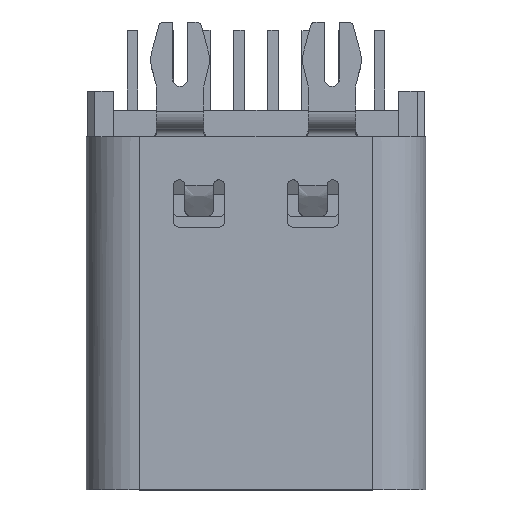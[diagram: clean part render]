
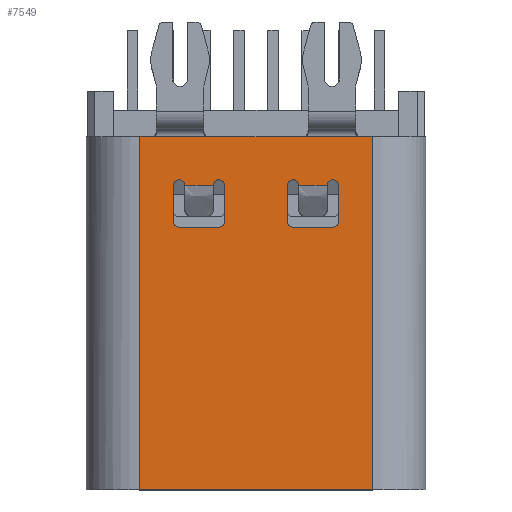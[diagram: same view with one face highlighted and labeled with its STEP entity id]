
A CAD part, top view. The second image highlights one B-rep face of the part: STEP entity #7549.
In plain terms, the highlighted planar face has unit normal (0, 0, 1).
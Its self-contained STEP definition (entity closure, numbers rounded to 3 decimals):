
#825=DIRECTION('',(0.,-1.,0.));
#826=VECTOR('',#825,9.299);
#827=CARTESIAN_POINT('',(-3.07,3.674,1.13));
#828=LINE('',#827,#826);
#1088=DIRECTION('',(0.,1.,0.));
#1089=VECTOR('',#1088,9.299);
#1090=CARTESIAN_POINT('',(3.07,-5.625,1.13));
#1091=LINE('',#1090,#1089);
#1147=DIRECTION('',(-1.,0.,0.));
#1148=VECTOR('',#1147,6.14);
#1149=CARTESIAN_POINT('',(3.07,-5.625,1.13));
#1150=LINE('',#1149,#1148);
#1151=DIRECTION('',(1.,0.,0.));
#1152=VECTOR('',#1151,0.345);
#1153=CARTESIAN_POINT('',(-3.07,3.674,1.13));
#1154=LINE('',#1153,#1152);
#1155=DIRECTION('',(1.,0.,0.));
#1156=VECTOR('',#1155,2.55);
#1157=CARTESIAN_POINT('',(-1.275,3.674,1.13));
#1158=LINE('',#1157,#1156);
#1159=DIRECTION('',(1.,0.,0.));
#1160=VECTOR('',#1159,0.345);
#1161=CARTESIAN_POINT('',(2.725,3.674,1.13));
#1162=LINE('',#1161,#1160);
#1163=CARTESIAN_POINT('',(-2.025,2.391,1.13));
#1164=DIRECTION('',(0.,0.,-1.));
#1165=DIRECTION('',(-1.,0.,0.));
#1166=AXIS2_PLACEMENT_3D('',#1163,#1164,#1165);
#1168=DIRECTION('',(0.,1.,0.));
#1169=VECTOR('',#1168,0.947);
#1170=CARTESIAN_POINT('',(-2.175,1.444,1.13));
#1171=LINE('',#1170,#1169);
#1172=CARTESIAN_POINT('',(-2.025,1.444,1.13));
#1173=DIRECTION('',(0.,0.,-1.));
#1174=DIRECTION('',(0.,-1.,0.));
#1175=AXIS2_PLACEMENT_3D('',#1172,#1173,#1174);
#1177=DIRECTION('',(-1.,0.,0.));
#1178=VECTOR('',#1177,1.05);
#1179=CARTESIAN_POINT('',(-0.975,1.294,
1.13));
#1180=LINE('',#1179,#1178);
#1181=CARTESIAN_POINT('',(-0.975,1.444,
1.13));
#1182=DIRECTION('',(0.,0.,-1.));
#1183=DIRECTION('',(1.,0.,0.));
#1184=AXIS2_PLACEMENT_3D('',#1181,#1182,#1183);
#1186=DIRECTION('',(0.,-1.,0.));
#1187=VECTOR('',#1186,0.947);
#1188=CARTESIAN_POINT('',(-0.825,2.391,
1.13));
#1189=LINE('',#1188,#1187);
#1190=CARTESIAN_POINT('',(-0.975,2.391,
1.13));
#1191=DIRECTION('',(0.,0.,-1.));
#1192=DIRECTION('',(-1.,0.,0.));
#1193=AXIS2_PLACEMENT_3D('',#1190,#1191,#1192);
#1195=DIRECTION('',(-1.,0.,0.));
#1196=VECTOR('',#1195,0.75);
#1197=CARTESIAN_POINT('',(-1.125,2.391,1.13));
#1198=LINE('',#1197,#1196);
#1199=CARTESIAN_POINT('',(0.975,2.391,1.13));
#1200=DIRECTION('',(0.,0.,-1.));
#1201=DIRECTION('',(-1.,0.,0.));
#1202=AXIS2_PLACEMENT_3D('',#1199,#1200,#1201);
#1204=DIRECTION('',(0.,1.,0.));
#1205=VECTOR('',#1204,0.947);
#1206=CARTESIAN_POINT('',(0.825,1.444,1.13));
#1207=LINE('',#1206,#1205);
#1208=CARTESIAN_POINT('',(0.975,1.444,1.13));
#1209=DIRECTION('',(0.,0.,-1.));
#1210=DIRECTION('',(0.,-1.,0.));
#1211=AXIS2_PLACEMENT_3D('',#1208,#1209,#1210);
#1213=DIRECTION('',(-1.,0.,0.));
#1214=VECTOR('',#1213,1.05);
#1215=CARTESIAN_POINT('',(2.025,1.294,1.13));
#1216=LINE('',#1215,#1214);
#1217=CARTESIAN_POINT('',(2.025,1.444,1.13));
#1218=DIRECTION('',(0.,0.,-1.));
#1219=DIRECTION('',(1.,0.,0.));
#1220=AXIS2_PLACEMENT_3D('',#1217,#1218,#1219);
#1222=DIRECTION('',(0.,-1.,0.));
#1223=VECTOR('',#1222,0.947);
#1224=CARTESIAN_POINT('',(2.175,2.391,1.13));
#1225=LINE('',#1224,#1223);
#1226=CARTESIAN_POINT('',(2.025,2.391,1.13));
#1227=DIRECTION('',(0.,0.,-1.));
#1228=DIRECTION('',(-1.,0.,0.));
#1229=AXIS2_PLACEMENT_3D('',#1226,#1227,#1228);
#1231=DIRECTION('',(1.,0.,0.));
#1232=VECTOR('',#1231,0.75);
#1233=CARTESIAN_POINT('',(1.125,2.391,1.13));
#1234=LINE('',#1233,#1232);
#1244=DIRECTION('',(-1.,0.,0.));
#1245=VECTOR('',#1244,1.45);
#1246=CARTESIAN_POINT('',(-1.275,3.674,1.13));
#1247=LINE('',#1246,#1245);
#1582=DIRECTION('',(-1.,0.,0.));
#1583=VECTOR('',#1582,1.45);
#1584=CARTESIAN_POINT('',(2.725,3.674,1.13));
#1585=LINE('',#1584,#1583);
#1586=CARTESIAN_POINT('',(1.275,3.674,1.13));
#1606=CARTESIAN_POINT('',(2.725,3.674,1.13));
#5540=VERTEX_POINT('',#1586);
#5546=VERTEX_POINT('',#1606);
#5565=CARTESIAN_POINT('',(-1.275,3.674,1.13));
#5566=CARTESIAN_POINT('',(-2.725,3.674,1.13));
#5567=VERTEX_POINT('',#5565);
#5568=VERTEX_POINT('',#5566);
#5733=CARTESIAN_POINT('',(3.07,3.674,1.13));
#5734=VERTEX_POINT('',#5733);
#5735=CARTESIAN_POINT('',(-3.07,3.674,1.13));
#5736=VERTEX_POINT('',#5735);
#5741=CARTESIAN_POINT('',(2.025,1.294,1.13));
#5742=CARTESIAN_POINT('',(0.975,1.294,1.13));
#5743=VERTEX_POINT('',#5741);
#5744=VERTEX_POINT('',#5742);
#5745=CARTESIAN_POINT('',(0.825,1.444,1.13));
#5746=CARTESIAN_POINT('',(0.825,2.391,1.13));
#5747=VERTEX_POINT('',#5745);
#5748=VERTEX_POINT('',#5746);
#5749=CARTESIAN_POINT('',(2.175,2.391,1.13));
#5750=CARTESIAN_POINT('',(2.175,1.444,1.13));
#5751=VERTEX_POINT('',#5749);
#5752=VERTEX_POINT('',#5750);
#5773=CARTESIAN_POINT('',(1.125,2.391,1.13));
#5774=VERTEX_POINT('',#5773);
#5775=CARTESIAN_POINT('',(1.875,2.391,1.13));
#5776=VERTEX_POINT('',#5775);
#5777=CARTESIAN_POINT('',(-1.125,2.391,1.13));
#5778=CARTESIAN_POINT('',(-1.875,2.391,1.13));
#5779=VERTEX_POINT('',#5777);
#5780=VERTEX_POINT('',#5778);
#5797=CARTESIAN_POINT('',(-2.025,1.294,1.13));
#5798=CARTESIAN_POINT('',(-2.175,1.444,1.13));
#5799=VERTEX_POINT('',#5797);
#5800=VERTEX_POINT('',#5798);
#5801=CARTESIAN_POINT('',(-2.175,2.391,1.13));
#5802=VERTEX_POINT('',#5801);
#5803=CARTESIAN_POINT('',(-0.825,2.391,
1.13));
#5804=CARTESIAN_POINT('',(-0.825,1.444,
1.13));
#5805=VERTEX_POINT('',#5803);
#5806=VERTEX_POINT('',#5804);
#5807=CARTESIAN_POINT('',(-0.975,1.294,
1.13));
#5808=VERTEX_POINT('',#5807);
#6086=CARTESIAN_POINT('',(-3.07,-5.625,
1.13));
#6088=VERTEX_POINT('',#6086);
#6099=CARTESIAN_POINT('',(3.07,-5.625,1.13));
#6101=VERTEX_POINT('',#6099);
#7495=CARTESIAN_POINT('',(2.89,-5.326,1.13));
#7496=DIRECTION('',(0.,0.,1.));
#7497=DIRECTION('',(-1.,0.,0.));
#7498=AXIS2_PLACEMENT_3D('',#7495,#7496,#7497);
#7499=PLANE('',#7498);
#7500=ORIENTED_EDGE('',*,*,#7431,.F.);
#7501=ORIENTED_EDGE('',*,*,#7070,.T.);
#7502=ORIENTED_EDGE('',*,*,#7125,.F.);
#7503=ORIENTED_EDGE('',*,*,#6982,.T.);
#7505=ORIENTED_EDGE('',*,*,#7504,.F.);
#7507=ORIENTED_EDGE('',*,*,#7506,.T.);
#7509=ORIENTED_EDGE('',*,*,#7508,.F.);
#7510=ORIENTED_EDGE('',*,*,#7485,.T.);
#7511=EDGE_LOOP('',(#7500,#7501,#7502,#7503,#7505,#7507,#7509,#7510));
#7512=FACE_OUTER_BOUND('',#7511,.F.);
#7514=ORIENTED_EDGE('',*,*,#7513,.F.);
#7516=ORIENTED_EDGE('',*,*,#7515,.F.);
#7518=ORIENTED_EDGE('',*,*,#7517,.F.);
#7520=ORIENTED_EDGE('',*,*,#7519,.F.);
#7522=ORIENTED_EDGE('',*,*,#7521,.F.);
#7524=ORIENTED_EDGE('',*,*,#7523,.F.);
#7526=ORIENTED_EDGE('',*,*,#7525,.F.);
#7528=ORIENTED_EDGE('',*,*,#7527,.T.);
#7529=EDGE_LOOP('',(#7514,#7516,#7518,#7520,#7522,#7524,#7526,#7528));
#7530=FACE_BOUND('',#7529,.F.);
#7532=ORIENTED_EDGE('',*,*,#7531,.F.);
#7534=ORIENTED_EDGE('',*,*,#7533,.F.);
#7536=ORIENTED_EDGE('',*,*,#7535,.F.);
#7538=ORIENTED_EDGE('',*,*,#7537,.F.);
#7540=ORIENTED_EDGE('',*,*,#7539,.F.);
#7542=ORIENTED_EDGE('',*,*,#7541,.F.);
#7544=ORIENTED_EDGE('',*,*,#7543,.F.);
#7546=ORIENTED_EDGE('',*,*,#7545,.F.);
#7547=EDGE_LOOP('',(#7532,#7534,#7536,#7538,#7540,#7542,#7544,#7546));
#7548=FACE_BOUND('',#7547,.F.);
#1167=CIRCLE('',#1166,0.15);
#1176=CIRCLE('',#1175,0.15);
#1185=CIRCLE('',#1184,0.15);
#1194=CIRCLE('',#1193,0.15);
#1203=CIRCLE('',#1202,0.15);
#1212=CIRCLE('',#1211,0.15);
#1221=CIRCLE('',#1220,0.15);
#1230=CIRCLE('',#1229,0.15);
#6982=EDGE_CURVE('',#5736,#5568,#1154,.T.);
#7070=EDGE_CURVE('',#6101,#6088,#1150,.T.);
#7125=EDGE_CURVE('',#5736,#6088,#828,.T.);
#7431=EDGE_CURVE('',#6101,#5734,#1091,.T.);
#7485=EDGE_CURVE('',#5546,#5734,#1162,.T.);
#7504=EDGE_CURVE('',#5567,#5568,#1247,.T.);
#7506=EDGE_CURVE('',#5567,#5540,#1158,.T.);
#7508=EDGE_CURVE('',#5546,#5540,#1585,.T.);
#7513=EDGE_CURVE('',#5802,#5780,#1167,.T.);
#7515=EDGE_CURVE('',#5800,#5802,#1171,.T.);
#7517=EDGE_CURVE('',#5799,#5800,#1176,.T.);
#7519=EDGE_CURVE('',#5808,#5799,#1180,.T.);
#7521=EDGE_CURVE('',#5806,#5808,#1185,.T.);
#7523=EDGE_CURVE('',#5805,#5806,#1189,.T.);
#7525=EDGE_CURVE('',#5779,#5805,#1194,.T.);
#7527=EDGE_CURVE('',#5779,#5780,#1198,.T.);
#7531=EDGE_CURVE('',#5748,#5774,#1203,.T.);
#7533=EDGE_CURVE('',#5747,#5748,#1207,.T.);
#7535=EDGE_CURVE('',#5744,#5747,#1212,.T.);
#7537=EDGE_CURVE('',#5743,#5744,#1216,.T.);
#7539=EDGE_CURVE('',#5752,#5743,#1221,.T.);
#7541=EDGE_CURVE('',#5751,#5752,#1225,.T.);
#7543=EDGE_CURVE('',#5776,#5751,#1230,.T.);
#7545=EDGE_CURVE('',#5774,#5776,#1234,.T.);
#7549=ADVANCED_FACE('',(#7512,#7530,#7548),#7499,.T.);
